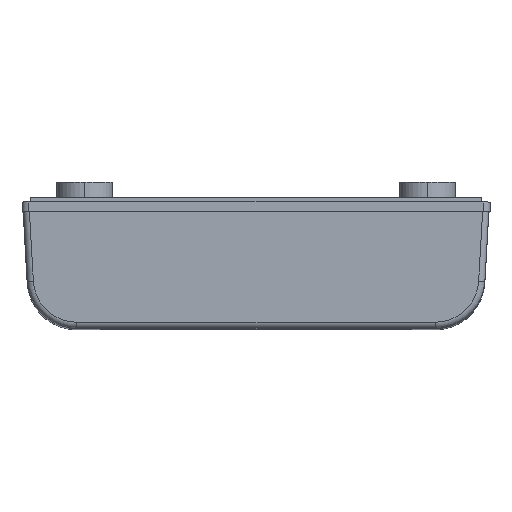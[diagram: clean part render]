
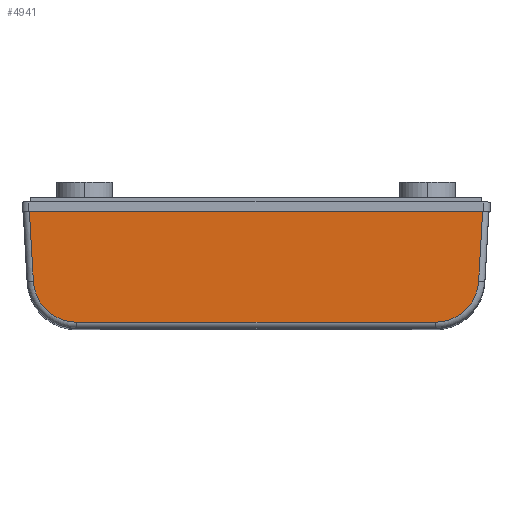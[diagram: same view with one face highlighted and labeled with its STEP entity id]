
A CAD part, top view. The second image highlights one B-rep face of the part: STEP entity #4941.
In plain terms, the highlighted planar face has unit normal (0, 0, 1).
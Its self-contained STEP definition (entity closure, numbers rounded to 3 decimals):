
#307 = DIRECTION ( 'NONE',  ( 1., 0., 0. ) ) ;
#384 = DIRECTION ( 'NONE',  ( 0., 0., 1. ) ) ;
#504 = CARTESIAN_POINT ( 'NONE',  ( -28.75, 8., 65.5 ) ) ;
#543 = PLANE ( 'NONE',  #5465 ) ;
#752 = AXIS2_PLACEMENT_3D ( 'NONE', #3600, #3621, #3581 ) ;
#868 = AXIS2_PLACEMENT_3D ( 'NONE', #3762, #3775, #3768 ) ;
#899 = VECTOR ( 'NONE', #3794, 1000. ) ;
#904 = LINE ( 'NONE', #3952, #899 ) ;
#940 = VERTEX_POINT ( 'NONE', #1356 ) ;
#969 = VECTOR ( 'NONE', #3681, 1000. ) ;
#978 = LINE ( 'NONE', #3736, #969 ) ;
#1070 = CARTESIAN_POINT ( 'NONE',  ( -28.75, 1., 65.5 ) ) ;
#1102 = VECTOR ( 'NONE', #3869, 1000. ) ;
#1111 = LINE ( 'NONE', #2104, #1102 ) ;
#1173 = CIRCLE ( 'NONE', #752, 7. ) ;
#1242 = CIRCLE ( 'NONE', #868, 7. ) ;
#1356 = CARTESIAN_POINT ( 'NONE',  ( 28.75, 1., 65.5 ) ) ;
#1375 = VECTOR ( 'NONE', #3937, 1000. ) ;
#1440 = LINE ( 'NONE', #4088, #1375 ) ;
#1640 = CARTESIAN_POINT ( 'NONE',  ( -35.739, 7.604, 65.5 ) ) ;
#1998 = CARTESIAN_POINT ( 'NONE',  ( 36.374, 18.8, 65.5 ) ) ;
#2104 = CARTESIAN_POINT ( 'NONE',  ( -35.739, 7.604, 65.5 ) ) ;
#3331 = VERTEX_POINT ( 'NONE', #1640 ) ;
#3581 = DIRECTION ( 'NONE',  ( 1., 0., 0. ) ) ;
#3600 = CARTESIAN_POINT ( 'NONE',  ( 28.75, 8., 65.5 ) ) ;
#3621 = DIRECTION ( 'NONE',  ( 0., 0., 1. ) ) ;
#3681 = DIRECTION ( 'NONE',  ( 1., 0., 0. ) ) ;
#3689 = CARTESIAN_POINT ( 'NONE',  ( 35.739, 7.604, 65.5 ) ) ;
#3736 = CARTESIAN_POINT ( 'NONE',  ( -28.75, 1., 65.5 ) ) ;
#3762 = CARTESIAN_POINT ( 'NONE',  ( -28.75, 8., 65.5 ) ) ;
#3768 = DIRECTION ( 'NONE',  ( 1., 0., 0. ) ) ;
#3775 = DIRECTION ( 'NONE',  ( 0., 0., 1. ) ) ;
#3794 = DIRECTION ( 'NONE',  ( 0.057, 0.998, 0. ) ) ;
#3869 = DIRECTION ( 'NONE',  ( 0.057, -0.998, 0. ) ) ;
#3937 = DIRECTION ( 'NONE',  ( 1., 0., 0. ) ) ;
#3952 = CARTESIAN_POINT ( 'NONE',  ( 35.554, 4.354, 65.5 ) ) ;
#4086 = FACE_OUTER_BOUND ( 'NONE', #5173, .T. ) ;
#4088 = CARTESIAN_POINT ( 'NONE',  ( -28.75, 18.8, 65.5 ) ) ;
#4417 = VERTEX_POINT ( 'NONE', #4499 ) ;
#4473 = EDGE_CURVE ( 'NONE', #4417, #4837, #1440, .T. ) ;
#4491 = EDGE_CURVE ( 'NONE', #4417, #3331, #1111, .T. ) ;
#4497 = EDGE_CURVE ( 'NONE', #3331, #4930, #1242, .T. ) ;
#4499 = CARTESIAN_POINT ( 'NONE',  ( -36.374, 18.8, 65.5 ) ) ;
#4510 = EDGE_CURVE ( 'NONE', #4930, #940, #978, .T. ) ;
#4535 = VERTEX_POINT ( 'NONE', #3689 ) ;
#4536 = EDGE_CURVE ( 'NONE', #940, #4535, #1173, .T. ) ;
#4543 = EDGE_CURVE ( 'NONE', #4535, #4837, #904, .T. ) ;
#4659 = ORIENTED_EDGE ( 'NONE', *, *, #4473, .F. ) ;
#4837 = VERTEX_POINT ( 'NONE', #1998 ) ;
#4851 = ORIENTED_EDGE ( 'NONE', *, *, #4491, .T. ) ;
#4911 = ORIENTED_EDGE ( 'NONE', *, *, #4497, .T. ) ;
#4930 = VERTEX_POINT ( 'NONE', #1070 ) ;
#4941 = ADVANCED_FACE ( 'NONE', ( #4086 ), #543, .T. ) ;
#4978 = ORIENTED_EDGE ( 'NONE', *, *, #4510, .T. ) ;
#5037 = ORIENTED_EDGE ( 'NONE', *, *, #4536, .T. ) ;
#5112 = ORIENTED_EDGE ( 'NONE', *, *, #4543, .T. ) ;
#5173 = EDGE_LOOP ( 'NONE', ( #4659, #4851, #4911, #4978, #5037, #5112 ) ) ;
#5465 = AXIS2_PLACEMENT_3D ( 'NONE', #504, #384, #307 ) ;
